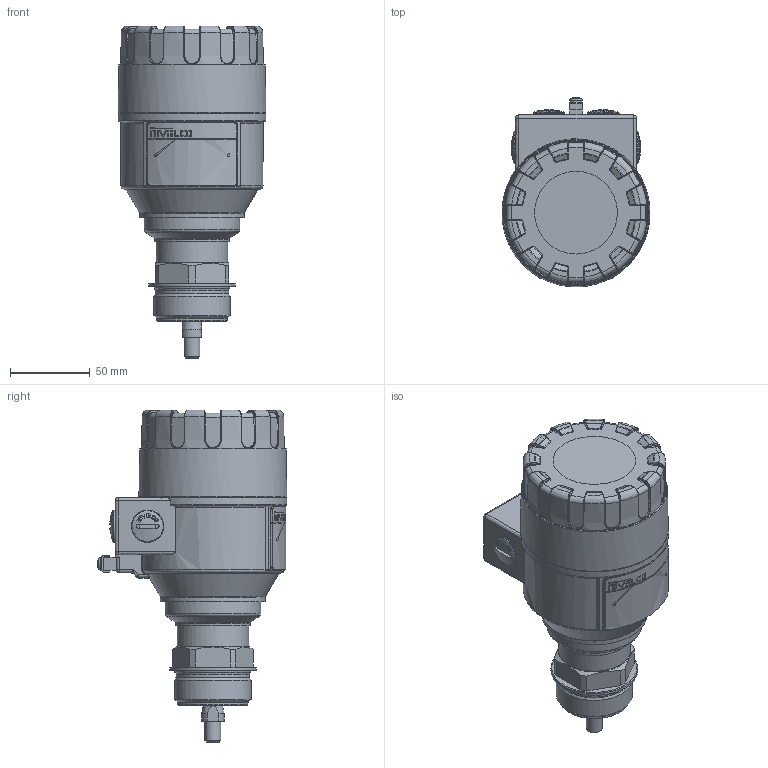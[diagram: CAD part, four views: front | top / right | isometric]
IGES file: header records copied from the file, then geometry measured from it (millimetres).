
Global section: file name: HT_Mű_1.5 col,; native system: Autodesk Inventor 2015; preprocessor: unknown; author: aantal; date: 20150306.111004; units: millimetre
Bounding box: 92.98 x 119.27 x 208.6 mm (x, y, z)
Volume: 991996.4 mm3; surface area: 103316.8 mm2
Topology: 12 solids, 12 shells, 1296 faces, 3206 edges, 1975 vertices
Faces by surface type: bspline 1296
